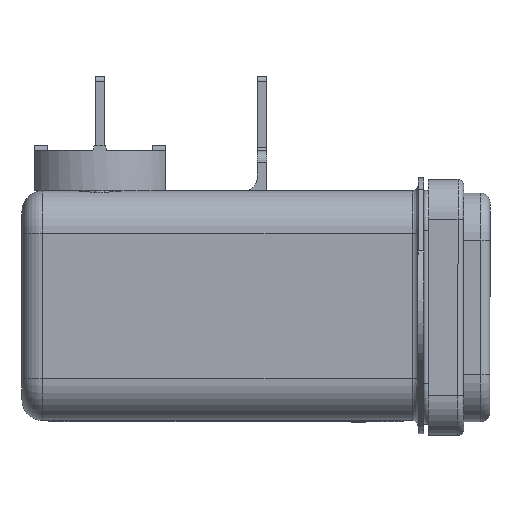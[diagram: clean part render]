
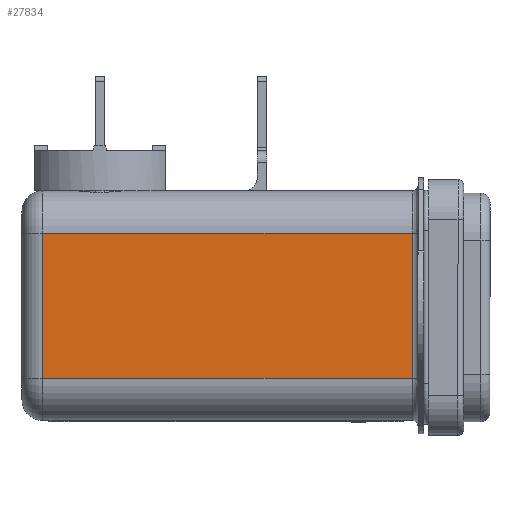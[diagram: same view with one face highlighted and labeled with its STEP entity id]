
A CAD part, left-side view. The second image highlights one B-rep face of the part: STEP entity #27834.
In plain terms, the highlighted planar face has unit normal (-1, 0, 0).
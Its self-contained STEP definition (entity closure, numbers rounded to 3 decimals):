
#25368=CARTESIAN_POINT('',(-13.8,33.35,6.35));
#25369=VERTEX_POINT('',#25368);
#25377=CARTESIAN_POINT('',(-13.8,1.,6.35));
#25378=VERTEX_POINT('',#25377);
#25379=CARTESIAN_POINT('',(-13.8,1.,6.35));
#25380=DIRECTION('',(0.0,1.0,0.0));
#25381=VECTOR('',#25380,32.35);
#25382=LINE('',#25379,#25381);
#25383=EDGE_CURVE('',#25378,#25369,#25382,.T.);
#27481=CARTESIAN_POINT('',(-13.8,1.,-6.35));
#27482=VERTEX_POINT('',#27481);
#27499=CARTESIAN_POINT('',(-13.8,1.,6.35));
#27500=DIRECTION('',(0.0,0.0,-1.0));
#27501=VECTOR('',#27500,12.7);
#27502=LINE('',#27499,#27501);
#27503=EDGE_CURVE('',#25378,#27482,#27502,.T.);
#27797=CARTESIAN_POINT('',(-13.8,33.35,-6.35));
#27798=VERTEX_POINT('',#27797);
#27799=CARTESIAN_POINT('',(-13.8,1.,-6.35));
#27800=DIRECTION('',(0.0,1.0,0.0));
#27801=VECTOR('',#27800,32.35);
#27802=LINE('',#27799,#27801);
#27803=EDGE_CURVE('',#27482,#27798,#27802,.T.);
#27818=CARTESIAN_POINT('',(-13.8,0.,6.35));
#27819=DIRECTION('',(-1.0,0.0,0.0));
#27820=DIRECTION('',(0.0,0.0,1.0));
#27821=AXIS2_PLACEMENT_3D('',#27818,#27819,#27820);
#27822=PLANE('',#27821);
#27823=ORIENTED_EDGE('',*,*,#27503,.F.);
#27824=ORIENTED_EDGE('',*,*,#25383,.T.);
#27825=CARTESIAN_POINT('',(-13.8,33.35,-6.35));
#27826=DIRECTION('',(0.0,0.0,1.0));
#27827=VECTOR('',#27826,12.7);
#27828=LINE('',#27825,#27827);
#27829=EDGE_CURVE('',#27798,#25369,#27828,.T.);
#27830=ORIENTED_EDGE('',*,*,#27829,.F.);
#27831=ORIENTED_EDGE('',*,*,#27803,.F.);
#27832=EDGE_LOOP('',(#27823,#27824,#27830,#27831));
#27833=FACE_OUTER_BOUND('',#27832,.T.);
#27834=ADVANCED_FACE('',(#27833),#27822,.T.);
